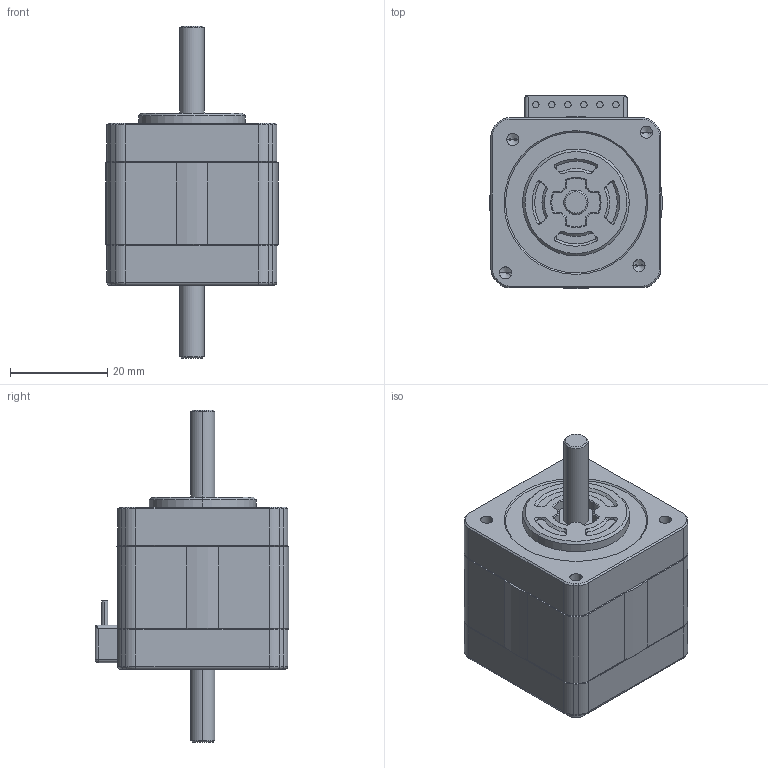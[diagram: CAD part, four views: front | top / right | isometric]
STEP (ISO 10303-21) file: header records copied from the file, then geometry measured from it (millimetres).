
FILE_DESCRIPTION (( 'STEP AP203' ), '1' );
FILE_NAME ('SH3533-12U10.STEP', '2018-04-24T05:46:10', ( 'sanyodenki-admin' ), ( '' ), 'SwSTEP 2.0', 'SolidWorks 2017', '' );
FILE_SCHEMA (( 'CONFIG_CONTROL_DESIGN' ));
Length unit declared in the file: millimetre
Products named in the file (1): SH3533-12U10
Bounding box: 35.57 x 39.97 x 68.4 mm (x, y, z)
Volume: 42282 mm3; surface area: 8343.1 mm2
Topology: 1 solids, 1 shells, 358 faces, 868 edges, 525 vertices
Faces by surface type: plane 117, cylinder 97, cone 96, bspline 34, torus 12, sphere 2
Entity records: 11185 total; most frequent: CARTESIAN_POINT 3044, ORIENTED_EDGE 1712, DIRECTION 1660, EDGE_CURVE 856, AXIS2_PLACEMENT_3D 653, VERTEX_POINT 525, EDGE_LOOP 383, ADVANCED_FACE 358
